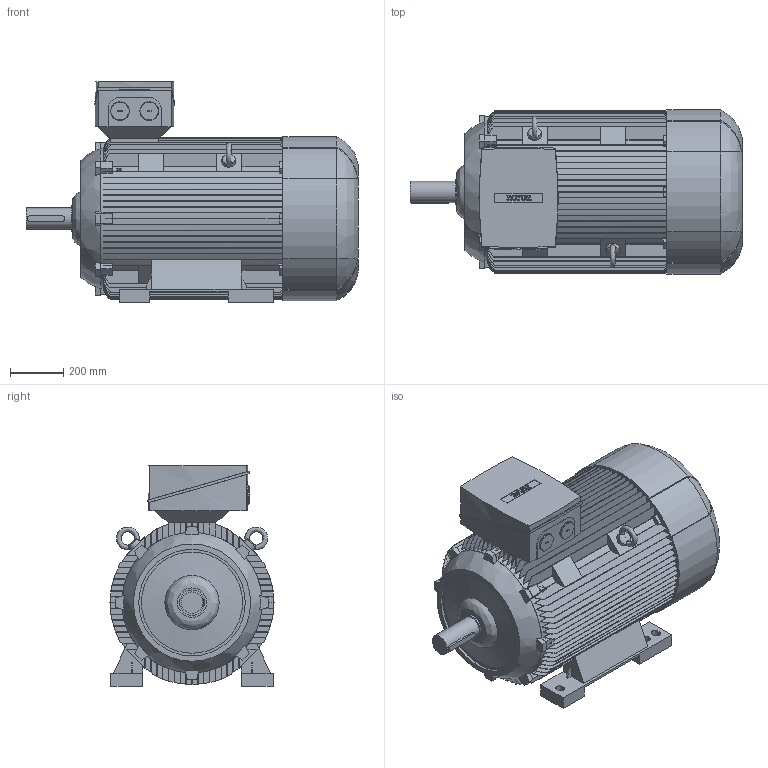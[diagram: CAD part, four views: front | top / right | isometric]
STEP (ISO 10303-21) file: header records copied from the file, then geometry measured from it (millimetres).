
FILE_DESCRIPTION (( 'STEP AP214' ), '1' );
FILE_NAME ('6RN315L06E15 IM1001.STEP', '2016-02-12T12:12:18', ( 'rotor' ), ( 'Hewlett-Packard Company' ), 'SwSTEP 2.0', 'SolidWorks 2012', '' );
FILE_SCHEMA (( 'AUTOMOTIVE_DESIGN' ));
Length unit declared in the file: millimetre
Products named in the file (1): 6RN315L06E15 IM1001
Bounding box: 1247 x 616 x 830 mm (x, y, z)
Volume: 279437987.8 mm3; surface area: 7279150.9 mm2
Topology: 1 solids, 1 shells, 1037 faces, 2996 edges, 1990 vertices
Faces by surface type: plane 664, bspline 215, cylinder 153, cone 5
Full cylindrical faces by diameter (mm): 5 x1, 50 x2, 70 x2, 80 x1, 95 x1, 400 x1
Entity records: 51262 total; most frequent: CARTESIAN_POINT 15289, ORIENTED_EDGE 5938, DIRECTION 4620, EDGE_CURVE 2969, VERTEX_POINT 1979, LINE 1794, VECTOR 1794, AXIS2_PLACEMENT_3D 1413
